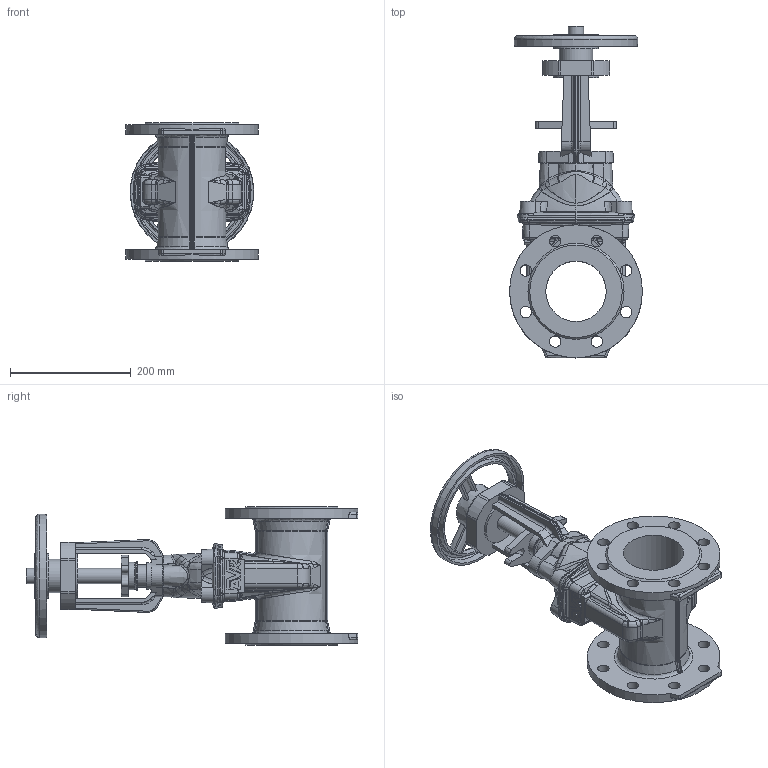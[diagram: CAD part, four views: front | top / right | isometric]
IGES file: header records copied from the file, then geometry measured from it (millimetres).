
Start section: SolidWorks IGES file using analytic representation for surfaces
Global section: file name: \\avksan2\techshare\PBM outline export from Enovia\O_21_34_DN100_41XXXXX close_AA0.igs; native system: SolidWorks 2012; preprocessor: SolidWorks 2012; author: pbm; date: 200212.100452; units: millimetre
Bounding box: 220 x 549.37 x 229 mm (x, y, z)
Surface area: 555322.1 mm2 (no closed solid volume)
Topology: 0 solids, 0 shells, 903 faces, 4744 edges, 4648 vertices
Faces by surface type: bspline 497, revolution 406
